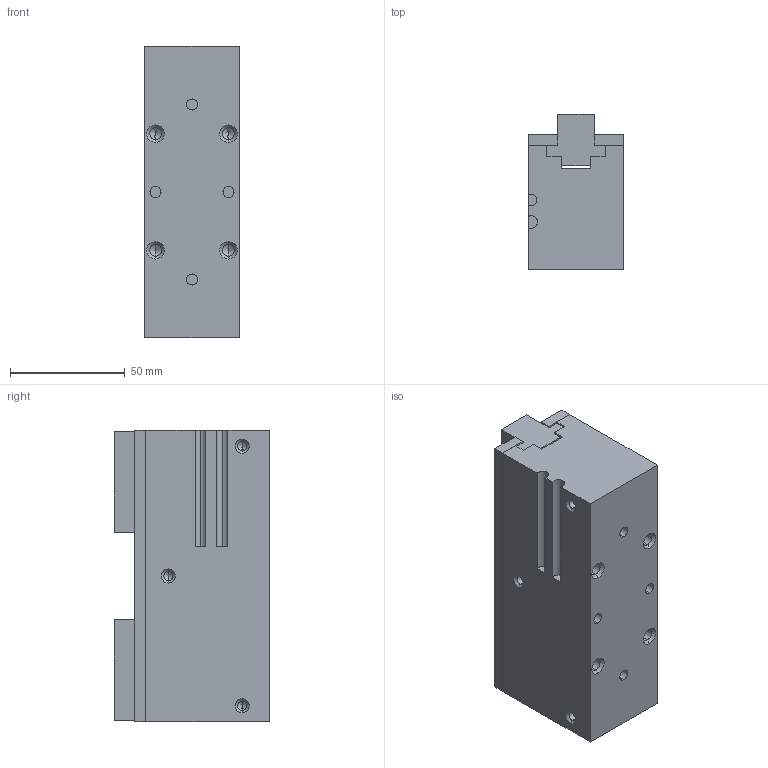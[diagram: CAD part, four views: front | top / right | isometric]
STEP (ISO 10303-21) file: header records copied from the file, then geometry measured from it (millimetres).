
FILE_DESCRIPTION (( 'STEP AP203' ), '1' );
FILE_NAME ('AGLP-8-1500-open.STEP', '2020-04-16T17:38:31', ( '' ), ( '' ), 'SwSTEP 2.0', 'SolidWorks 2016', '' );
FILE_SCHEMA (( 'CONFIG_CONTROL_DESIGN' ));
Length unit declared in the file: inch
Products named in the file (5): aglp8-8002A; aglp8-8006; 6-32_91251A144; AGLP-8-1500-open; aglp8-8001
Assembly tree (5 placements, depth 2):
  AGLP-8-1500-open
    aglp8-8001
    aglp8-8002A  x2
    aglp8-8006
    6-32_91251A144
Bounding box: 41.27 x 67.57 x 127 mm (x, y, z)
Volume: 302836 mm3; surface area: 55404.3 mm2
Topology: 5 solids, 5 shells, 260 faces, 635 edges, 392 vertices
Faces by surface type: cylinder 109, plane 92, cone 57, bspline 2
Entity records: 7895 total; most frequent: CARTESIAN_POINT 2214, DIRECTION 1082, ORIENTED_EDGE 1058, EDGE_CURVE 529, AXIS2_PLACEMENT_3D 401, VERTEX_POINT 338, LINE 280, VECTOR 280
